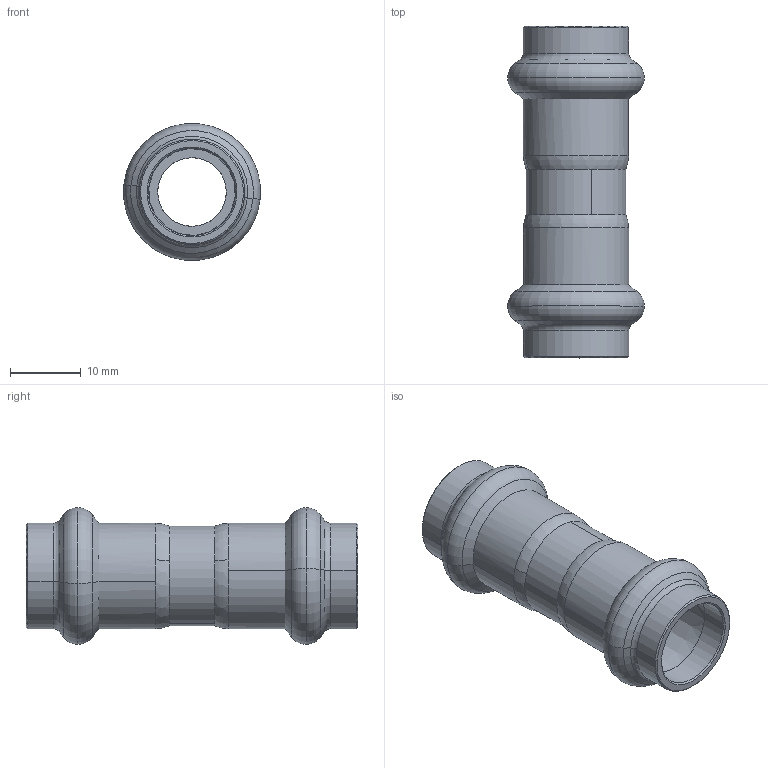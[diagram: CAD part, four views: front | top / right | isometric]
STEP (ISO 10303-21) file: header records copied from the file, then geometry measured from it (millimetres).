
FILE_DESCRIPTION(('CoCreate Modeling STEP Export'),'2;1');
FILE_NAME('8270VW12.stp','2013-01-29T12:34:41',(''),(''),'CoCreate Modeling STEP processor for AP214 (Solid Model)','CoCreate Modeling 17.00A 17-Jun-2010 (C) Parametric Technology GmbH','');
FILE_SCHEMA(('AUTOMOTIVE_DESIGN { 1 0 10303 214 1 1 1 1 }'));
Length unit declared in the file: millimetre
Products named in the file (1): 8270VW12
Bounding box: 19.26 x 46.74 x 19.26 mm (x, y, z)
Volume: 3588.5 mm3; surface area: 4504.1 mm2
Topology: 1 solids, 1 shells, 78 faces, 182 edges, 110 vertices
Faces by surface type: torus 28, cylinder 24, cone 20, plane 6
Entity records: 1768 total; most frequent: ORIENTED_EDGE 364, DIRECTION 266, CARTESIAN_POINT 265, EDGE_CURVE 182, AXIS2_PLACEMENT_3D 111, VERTEX_POINT 110, EDGE_LOOP 84, FACE_OUTER_BOUND 78
